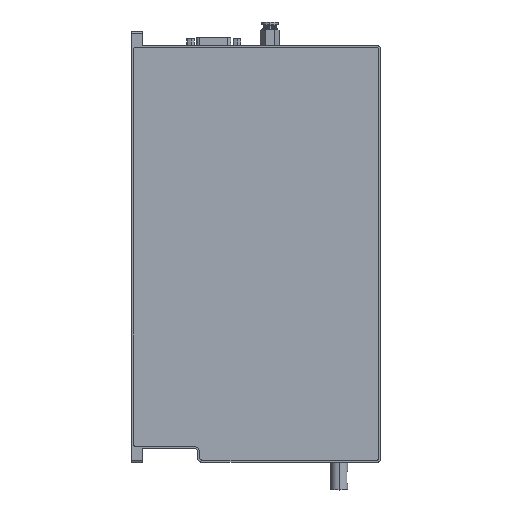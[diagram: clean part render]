
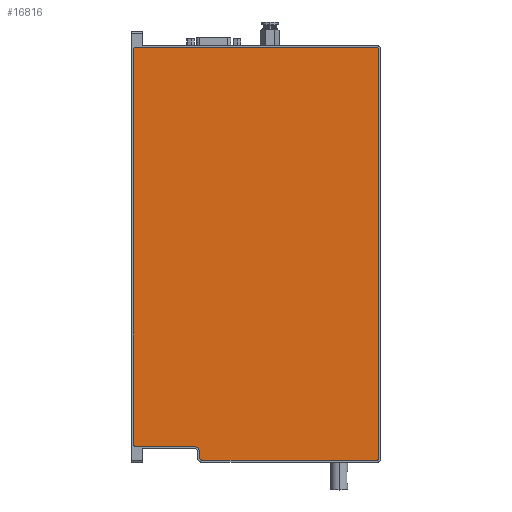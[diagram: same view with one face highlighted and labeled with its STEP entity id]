
A CAD part, top view. The second image highlights one B-rep face of the part: STEP entity #16816.
In plain terms, the highlighted planar face has unit normal (0, 0, 1).
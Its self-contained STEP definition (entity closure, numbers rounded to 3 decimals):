
#15 = VERTEX_POINT ( 'NONE', #1678 ) ;
#274 = CARTESIAN_POINT ( 'NONE',  ( -39., -148.5, 1. ) ) ;
#376 = CARTESIAN_POINT ( 'NONE',  ( -87., 147., 1. ) ) ;
#645 = CARTESIAN_POINT ( 'NONE',  ( 87., -147., 1. ) ) ;
#678 = DIRECTION ( 'NONE',  ( 0., 0., -1. ) ) ;
#719 = CARTESIAN_POINT ( 'NONE',  ( 0., -148.5, 1. ) ) ;
#856 = ORIENTED_EDGE ( 'NONE', *, *, #12742, .F. ) ;
#944 = AXIS2_PLACEMENT_3D ( 'NONE', #15406, #14195, #1093 ) ;
#945 = AXIS2_PLACEMENT_3D ( 'NONE', #11511, #3728, #9395 ) ;
#1093 = DIRECTION ( 'NONE',  ( -1., 0., 0. ) ) ;
#1181 = DIRECTION ( 'NONE',  ( -1., 0., 0. ) ) ;
#1270 = ORIENTED_EDGE ( 'NONE', *, *, #1791, .F. ) ;
#1485 = CARTESIAN_POINT ( 'NONE',  ( -45., -138.5, 1. ) ) ;
#1678 = CARTESIAN_POINT ( 'NONE',  ( 88.5, -147., 1. ) ) ;
#1737 = DIRECTION ( 'NONE',  ( -1., 0., 0. ) ) ;
#1791 = EDGE_CURVE ( 'NONE', #3327, #7776, #3125, .T. ) ;
#1945 = CARTESIAN_POINT ( 'NONE',  ( 88.5, 147., 1. ) ) ;
#2075 = CIRCLE ( 'NONE', #8951, 1.5 ) ;
#2648 = FACE_OUTER_BOUND ( 'NONE', #16500, .T. ) ;
#2738 = CIRCLE ( 'NONE', #12317, 1.5 ) ;
#2774 = VECTOR ( 'NONE', #1181, 1000. ) ;
#3113 = EDGE_CURVE ( 'NONE', #3234, #3327, #5629, .T. ) ;
#3125 = CIRCLE ( 'NONE', #944, 4.5 ) ;
#3186 = VERTEX_POINT ( 'NONE', #7183 ) ;
#3234 = VERTEX_POINT ( 'NONE', #12572 ) ;
#3327 = VERTEX_POINT ( 'NONE', #9570 ) ;
#3637 = VECTOR ( 'NONE', #1737, 1000. ) ;
#3728 = DIRECTION ( 'NONE',  ( 0., 0., -1. ) ) ;
#3800 = VERTEX_POINT ( 'NONE', #11719 ) ;
#4497 = DIRECTION ( 'NONE',  ( -1., 0., 0. ) ) ;
#4972 = CARTESIAN_POINT ( 'NONE',  ( 0., 0., 1. ) ) ;
#5156 = DIRECTION ( 'NONE',  ( 0., 0., -1. ) ) ;
#5229 = EDGE_CURVE ( 'NONE', #7776, #14415, #12428, .T. ) ;
#5245 = CARTESIAN_POINT ( 'NONE',  ( 0., -138.5, 1. ) ) ;
#5443 = DIRECTION ( 'NONE',  ( 0., 0., -1. ) ) ;
#5532 = EDGE_CURVE ( 'NONE', #15, #3800, #15545, .T. ) ;
#5629 = LINE ( 'NONE', #12485, #12282 ) ;
#6051 = CARTESIAN_POINT ( 'NONE',  ( -88.5, -137., 1. ) ) ;
#6293 = VECTOR ( 'NONE', #11344, 1000. ) ;
#6539 = CARTESIAN_POINT ( 'NONE',  ( -87., 148.5, 1. ) ) ;
#6997 = CIRCLE ( 'NONE', #14081, 1.5 ) ;
#7183 = CARTESIAN_POINT ( 'NONE',  ( 87., 148.5, 1. ) ) ;
#7219 = EDGE_CURVE ( 'NONE', #8684, #15, #8011, .T. ) ;
#7753 = EDGE_CURVE ( 'NONE', #10525, #15198, #2075, .T. ) ;
#7776 = VERTEX_POINT ( 'NONE', #1485 ) ;
#7844 = CARTESIAN_POINT ( 'NONE',  ( 0., 148.5, 1. ) ) ;
#7958 = EDGE_CURVE ( 'NONE', #15198, #3186, #12465, .T. ) ;
#7981 = ORIENTED_EDGE ( 'NONE', *, *, #3113, .F. ) ;
#8011 = LINE ( 'NONE', #9242, #15294 ) ;
#8113 = DIRECTION ( 'NONE',  ( 0., 0., -1. ) ) ;
#8394 = DIRECTION ( 'NONE',  ( 0., 0., -1. ) ) ;
#8684 = VERTEX_POINT ( 'NONE', #1945 ) ;
#8951 = AXIS2_PLACEMENT_3D ( 'NONE', #376, #8113, #12032 ) ;
#9006 = ORIENTED_EDGE ( 'NONE', *, *, #14793, .F. ) ;
#9151 = ORIENTED_EDGE ( 'NONE', *, *, #7219, .F. ) ;
#9231 = CARTESIAN_POINT ( 'NONE',  ( -87., -138.5, 1. ) ) ;
#9242 = CARTESIAN_POINT ( 'NONE',  ( 88.5, 0., 1. ) ) ;
#9395 = DIRECTION ( 'NONE',  ( 1., 0., 0. ) ) ;
#9570 = CARTESIAN_POINT ( 'NONE',  ( -40.5, -143., 1. ) ) ;
#9703 = ORIENTED_EDGE ( 'NONE', *, *, #5229, .F. ) ;
#10097 = VERTEX_POINT ( 'NONE', #274 ) ;
#10258 = CIRCLE ( 'NONE', #945, 1.5 ) ;
#10343 = DIRECTION ( 'NONE',  ( -1., 0., 0. ) ) ;
#10431 = ORIENTED_EDGE ( 'NONE', *, *, #5532, .F. ) ;
#10525 = VERTEX_POINT ( 'NONE', #16253 ) ;
#10606 = VERTEX_POINT ( 'NONE', #6051 ) ;
#10938 = ORIENTED_EDGE ( 'NONE', *, *, #13993, .F. ) ;
#11164 = AXIS2_PLACEMENT_3D ( 'NONE', #4972, #5156, #14027 ) ;
#11299 = CARTESIAN_POINT ( 'NONE',  ( -39., -147., 1. ) ) ;
#11344 = DIRECTION ( 'NONE',  ( 0., 1., 0. ) ) ;
#11383 = VECTOR ( 'NONE', #11427, 1000. ) ;
#11427 = DIRECTION ( 'NONE',  ( 1., 0., 0. ) ) ;
#11511 = CARTESIAN_POINT ( 'NONE',  ( -87., -137., 1. ) ) ;
#11719 = CARTESIAN_POINT ( 'NONE',  ( 87., -148.5, 1. ) ) ;
#11930 = CARTESIAN_POINT ( 'NONE',  ( 87., 147., 1. ) ) ;
#12032 = DIRECTION ( 'NONE',  ( -1., 0., 0. ) ) ;
#12058 = EDGE_CURVE ( 'NONE', #10097, #3234, #6997, .T. ) ;
#12282 = VECTOR ( 'NONE', #13425, 1000. ) ;
#12287 = LINE ( 'NONE', #719, #3637 ) ;
#12317 = AXIS2_PLACEMENT_3D ( 'NONE', #11930, #5443, #10343 ) ;
#12428 = LINE ( 'NONE', #5245, #2774 ) ;
#12465 = LINE ( 'NONE', #7844, #11383 ) ;
#12485 = CARTESIAN_POINT ( 'NONE',  ( -40.5, 0., 1. ) ) ;
#12572 = CARTESIAN_POINT ( 'NONE',  ( -40.5, -147., 1. ) ) ;
#12729 = ORIENTED_EDGE ( 'NONE', *, *, #12058, .F. ) ;
#12742 = EDGE_CURVE ( 'NONE', #14415, #10606, #10258, .T. ) ;
#13139 = DIRECTION ( 'NONE',  ( 0., -1., 0. ) ) ;
#13425 = DIRECTION ( 'NONE',  ( 0., 1., 0. ) ) ;
#13821 = CARTESIAN_POINT ( 'NONE',  ( -88.5, 0., 1. ) ) ;
#13993 = EDGE_CURVE ( 'NONE', #10606, #10525, #16744, .T. ) ;
#14027 = DIRECTION ( 'NONE',  ( -1., 0., 0. ) ) ;
#14081 = AXIS2_PLACEMENT_3D ( 'NONE', #11299, #678, #16701 ) ;
#14129 = EDGE_CURVE ( 'NONE', #3186, #8684, #2738, .T. ) ;
#14195 = DIRECTION ( 'NONE',  ( 0., 0., 1. ) ) ;
#14415 = VERTEX_POINT ( 'NONE', #9231 ) ;
#14793 = EDGE_CURVE ( 'NONE', #3800, #10097, #12287, .T. ) ;
#15014 = AXIS2_PLACEMENT_3D ( 'NONE', #645, #8394, #4497 ) ;
#15198 = VERTEX_POINT ( 'NONE', #6539 ) ;
#15294 = VECTOR ( 'NONE', #13139, 1000. ) ;
#15406 = CARTESIAN_POINT ( 'NONE',  ( -45., -143., 1. ) ) ;
#15545 = CIRCLE ( 'NONE', #15014, 1.5 ) ;
#15825 = ORIENTED_EDGE ( 'NONE', *, *, #14129, .F. ) ;
#16130 = ORIENTED_EDGE ( 'NONE', *, *, #7753, .F. ) ;
#16253 = CARTESIAN_POINT ( 'NONE',  ( -88.5, 147., 1. ) ) ;
#16457 = ORIENTED_EDGE ( 'NONE', *, *, #7958, .F. ) ;
#16500 = EDGE_LOOP ( 'NONE', ( #16130, #10938, #856, #9703, #1270, #7981, #12729, #9006, #10431, #9151, #15825, #16457 ) ) ;
#16701 = DIRECTION ( 'NONE',  ( 1., 0., 0. ) ) ;
#16705 = PLANE ( 'NONE',  #11164 ) ;
#16744 = LINE ( 'NONE', #13821, #6293 ) ;
#16816 = ADVANCED_FACE ( 'NONE', ( #2648 ), #16705, .F. ) ;
